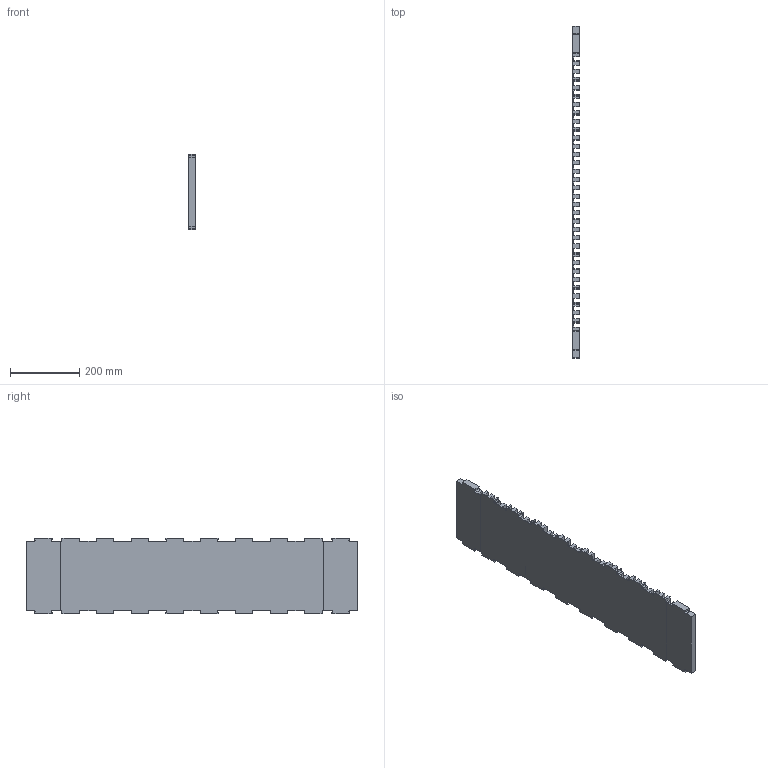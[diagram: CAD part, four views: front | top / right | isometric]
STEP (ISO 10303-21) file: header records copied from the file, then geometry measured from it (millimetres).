
FILE_DESCRIPTION (( 'STEP AP203' ), '1' );
FILE_NAME ('Pièce3.STEP', '2019-03-11T23:08:03', ( '' ), ( '' ), 'SwSTEP 2.0', 'SolidWorks 2017', '' );
FILE_SCHEMA (( 'CONFIG_CONTROL_DESIGN' ));
Length unit declared in the file: millimetre
Products named in the file (1): Pièce3
Bounding box: 18 x 957.12 x 218 mm (x, y, z)
Volume: 2363781.6 mm3; surface area: 642646.2 mm2
Topology: 1 solids, 1 shells, 278 faces, 824 edges, 548 vertices
Faces by surface type: plane 224, cylinder 54
Entity records: 9289 total; most frequent: CARTESIAN_POINT 1651, ORIENTED_EDGE 1648, DIRECTION 1498, EDGE_CURVE 824, LINE 708, VECTOR 708, VERTEX_POINT 548, AXIS2_PLACEMENT_3D 395
